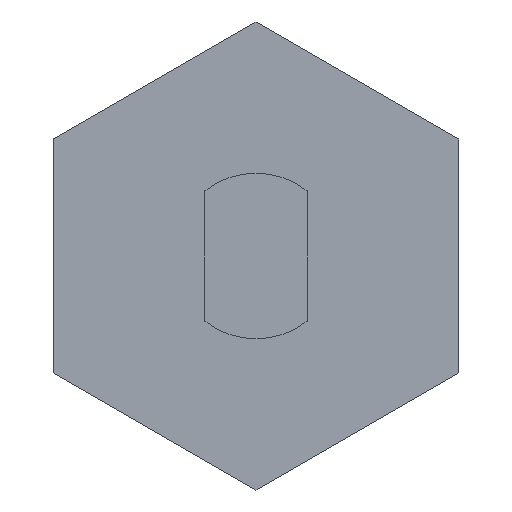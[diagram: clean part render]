
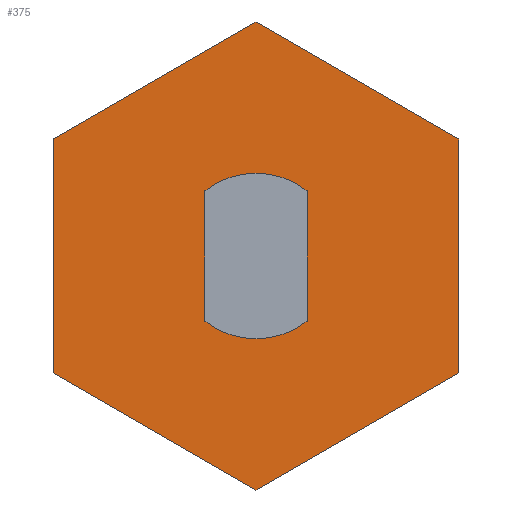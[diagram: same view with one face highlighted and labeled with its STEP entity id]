
A CAD part, front view. The second image highlights one B-rep face of the part: STEP entity #375.
In plain terms, the highlighted planar face has unit normal (0, -1, 0).
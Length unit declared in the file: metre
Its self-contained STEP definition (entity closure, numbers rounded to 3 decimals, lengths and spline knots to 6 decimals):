
#17=CIRCLE('',#409,0.0025);
#19=CIRCLE('',#413,0.0025);
#68=ORIENTED_EDGE('',*,*,#142,.F.);
#69=ORIENTED_EDGE('',*,*,#146,.T.);
#70=ORIENTED_EDGE('',*,*,#149,.F.);
#71=ORIENTED_EDGE('',*,*,#151,.F.);
#72=ORIENTED_EDGE('',*,*,#138,.T.);
#73=ORIENTED_EDGE('',*,*,#123,.T.);
#74=ORIENTED_EDGE('',*,*,#127,.T.);
#75=ORIENTED_EDGE('',*,*,#130,.T.);
#76=ORIENTED_EDGE('',*,*,#133,.T.);
#77=ORIENTED_EDGE('',*,*,#136,.T.);
#123=EDGE_CURVE('',#174,#173,#207,.T.);
#127=EDGE_CURVE('',#173,#176,#211,.T.);
#130=EDGE_CURVE('',#176,#178,#214,.T.);
#133=EDGE_CURVE('',#178,#180,#217,.T.);
#136=EDGE_CURVE('',#180,#182,#220,.T.);
#138=EDGE_CURVE('',#182,#174,#222,.T.);
#142=EDGE_CURVE('',#186,#187,#17,.T.);
#146=EDGE_CURVE('',#186,#189,#227,.T.);
#149=EDGE_CURVE('',#191,#189,#19,.T.);
#151=EDGE_CURVE('',#187,#191,#230,.T.);
#173=VERTEX_POINT('',#535);
#174=VERTEX_POINT('',#537);
#176=VERTEX_POINT('',#543);
#178=VERTEX_POINT('',#549);
#180=VERTEX_POINT('',#555);
#182=VERTEX_POINT('',#561);
#186=VERTEX_POINT('',#574);
#187=VERTEX_POINT('',#576);
#189=VERTEX_POINT('',#582);
#191=VERTEX_POINT('',#588);
#207=LINE('',#536,#251);
#211=LINE('',#544,#255);
#214=LINE('',#550,#258);
#217=LINE('',#556,#261);
#220=LINE('',#562,#264);
#222=LINE('',#565,#266);
#227=LINE('',#583,#271);
#230=LINE('',#592,#274);
#251=VECTOR('',#433,1.);
#255=VECTOR('',#439,1.);
#258=VECTOR('',#444,1.);
#261=VECTOR('',#449,1.);
#264=VECTOR('',#454,1.);
#266=VECTOR('',#458,1.);
#271=VECTOR('',#475,1.);
#274=VECTOR('',#486,1.);
#305=EDGE_LOOP('',(#68,#69,#70,#71));
#306=EDGE_LOOP('',(#72,#73,#74,#75,#76,#77));
#331=FACE_BOUND('',#305,.T.);
#332=FACE_BOUND('',#306,.T.);
#354=PLANE('',#415);
#375=ADVANCED_FACE('',(#331,#332),#354,.T.);
#409=AXIS2_PLACEMENT_3D('',#575,#468,#469);
#413=AXIS2_PLACEMENT_3D('',#589,#481,#482);
#415=AXIS2_PLACEMENT_3D('',#593,#487,#488);
#433=DIRECTION('',(-0.866,0.,-0.5));
#439=DIRECTION('',(0.,0.,-1.));
#444=DIRECTION('',(0.866,0.,-0.5));
#449=DIRECTION('',(0.866,0.,0.5));
#454=DIRECTION('',(0.,0.,1.));
#458=DIRECTION('',(-0.866,0.,0.5));
#468=DIRECTION('',(0.,-1.,0.));
#469=DIRECTION('',(0.,0.,-1.));
#475=DIRECTION('',(0.,0.,-1.));
#481=DIRECTION('',(0.,-1.,0.));
#482=DIRECTION('',(0.,0.,-1.));
#486=DIRECTION('',(0.,0.,-1.));
#487=DIRECTION('',(0.,-1.,0.));
#488=DIRECTION('',(1.,0.,0.));
#535=CARTESIAN_POINT('',(-0.006115,-0.03614,0.00353));
#536=CARTESIAN_POINT('',(-0.003058,-0.03614,0.005296));
#537=CARTESIAN_POINT('',(0.,-0.03614,0.007061));
#543=CARTESIAN_POINT('',(-0.006115,-0.03614,-0.00353));
#544=CARTESIAN_POINT('',(-0.006115,-0.03614,0.));
#549=CARTESIAN_POINT('',(0.,-0.03614,-0.007061));
#550=CARTESIAN_POINT('',(-0.003058,-0.03614,-0.005296));
#555=CARTESIAN_POINT('',(0.006115,-0.03614,-0.00353));
#556=CARTESIAN_POINT('',(0.003058,-0.03614,-0.005296));
#561=CARTESIAN_POINT('',(0.006115,-0.03614,0.00353));
#562=CARTESIAN_POINT('',(0.006115,-0.03614,0.));
#565=CARTESIAN_POINT('',(0.003058,-0.03614,0.005296));
#574=CARTESIAN_POINT('',(0.001541,-0.03614,0.001969));
#575=CARTESIAN_POINT('',(0.,-0.03614,0.));
#576=CARTESIAN_POINT('',(-0.001541,-0.03614,0.001969));
#582=CARTESIAN_POINT('',(0.001541,-0.03614,-0.001969));
#583=CARTESIAN_POINT('',(0.001541,-0.03614,0.));
#588=CARTESIAN_POINT('',(-0.001541,-0.03614,-0.001969));
#589=CARTESIAN_POINT('',(0.,-0.03614,0.));
#592=CARTESIAN_POINT('',(-0.001541,-0.03614,0.));
#593=CARTESIAN_POINT('',(0.,-0.03614,0.));
